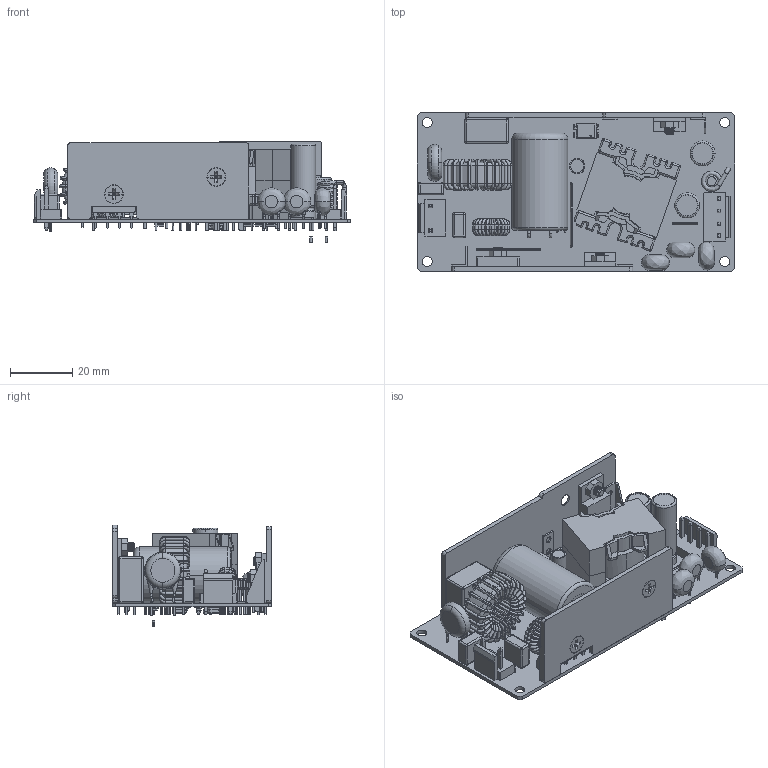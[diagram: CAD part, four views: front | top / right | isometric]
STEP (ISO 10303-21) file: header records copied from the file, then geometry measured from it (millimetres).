
FILE_DESCRIPTION(/* description */ (''),/* implementation_level */ '2;1');
FILE_NAME(/* name */ 'MDS-065APS.stp',/* time_stamp */ '2014-02-25T11:42:36+08:00',/* author */ (''),/* organization */ (''),/* preprocessor_version */ 'ST-DEVELOPER v14',/* originating_system */ 'SIEMENS PLM Software NX 8.0',/* authorisation */ '');
FILE_SCHEMA (('CONFIG_CONTROL_DESIGN'));
Products named in the file (39): 319-PQ2620-12PIN_5_AF0; 415-PQ2625-CORE_2; MDS-065-HSK1_AF0; BD1-M065; Q1-1_AF1_1_AF0; 3_6; 3_4; MDS-065-HSK2_AF0; D101; 3105452400-L7; NUT; MDS-065PAPCB; C1-OK; C32_AF0; C32-1; C103; IC32; D20; D10; CX1-M; CX1-M_3; CHOLE; B2P3-VH_LF_SN_AF0; B4P-VH_LF_SN_AF0; J4_AF0; J1_AF0; J2_AF0; J2_AF1; J2_AF2; IC131; D1; IC31; NTC1; CY1; MDS-065HSK1_AF0_ASM; MDS-065HSK2_AF0_ASM; 3194690600_ASM_1_AF0_ASM; 3194690600_ASM_AF0_ASM; MDS-065APS_stp
Assembly tree (47 placements, depth 4):
  MDS-065APS_stp
    CY1  x3
    NTC1
    IC31
    D1  x2
    IC131  x3
    J2_AF2
    J2_AF1
    J2_AF0
    J1_AF0
    J4_AF0
    B4P-VH_LF_SN_AF0
    B2P3-VH_LF_SN_AF0
    CHOLE
    CX1-M_3  x2
    CX1-M
    D10
    D20
    IC32
    C103
    C32-1
    C32_AF0
    C1-OK
    3194690600_ASM_AF0_ASM
      3194690600_ASM_1_AF0_ASM
        415-PQ2625-CORE_2  x2
        319-PQ2620-12PIN_5_AF0
    MDS-065HSK2_AF0_ASM
      NUT
      3105452400-L7
      D101
      MDS-065-HSK2_AF0
    MDS-065HSK1_AF0_ASM
      NUT  x2
      3_4
      3_6
      Q1-1_AF1_1_AF0
      BD1-M065
      MDS-065-HSK1_AF0
    MDS-065PAPCB
Bounding box: 101.6 x 50.8 x 32.6 mm (x, y, z)
Volume: 39722.8 mm3; surface area: 42134.5 mm2
Topology: 74 solids, 74 shells, 2807 faces, 6760 edges, 3998 vertices
Faces by surface type: cylinder 1110, plane 995, torus 489, sphere 114, bspline 67, cone 32
Entity records: 92078 total; most frequent: CARTESIAN_POINT 27789, DIRECTION 13362, ORIENTED_EDGE 12128, EDGE_CURVE 6064, AXIS2_PLACEMENT_3D 5214, VERTEX_POINT 3630, LINE 2934, VECTOR 2934
